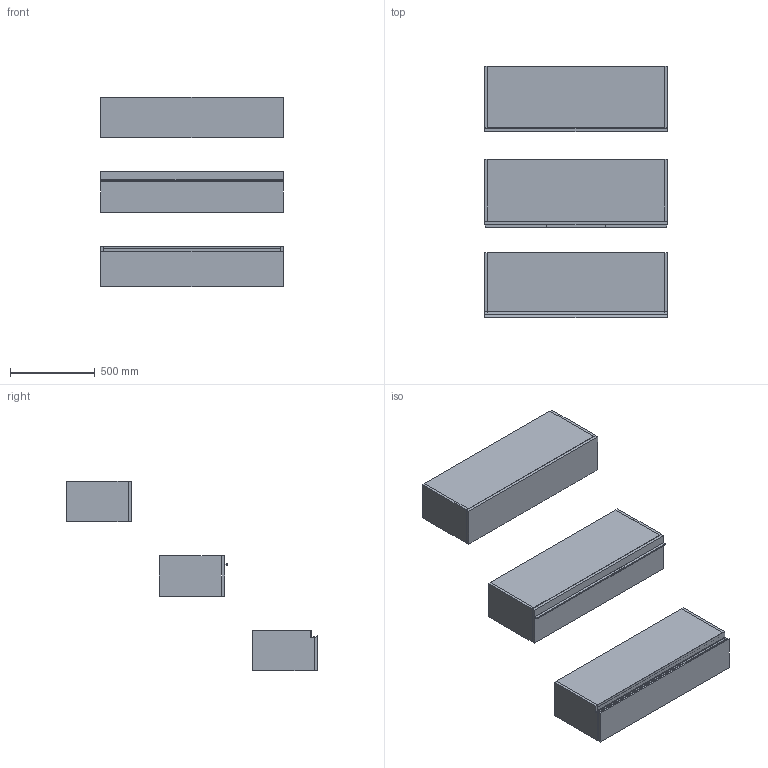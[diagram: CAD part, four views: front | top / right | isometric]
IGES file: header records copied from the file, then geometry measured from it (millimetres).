
Start section: Data from Parasolid IGES Translator 19.0.9, Copyright(c) 2006 Siemens PL M Software. All Rights Reserved.
Global section: file name: noorth-SI-H 24 D 38,8 W 108_8248.igs; native system: By Siemens PLM Incorporated; preprocessor: XPlus GENERIC/IGES 19.0.9; author: Noname; organization: Noname; date: 20200530.104711; units: metre
Bounding box: 1080.01 x 1485.97 x 1120 mm (x, y, z)
Volume: 60820571.6 mm3; surface area: 9123922.4 mm2
Topology: 20 solids, 20 shells, 178 faces, 382 edges, 234 vertices
Faces by surface type: plane 134, extrusion 16, bspline 16, cylinder 12
